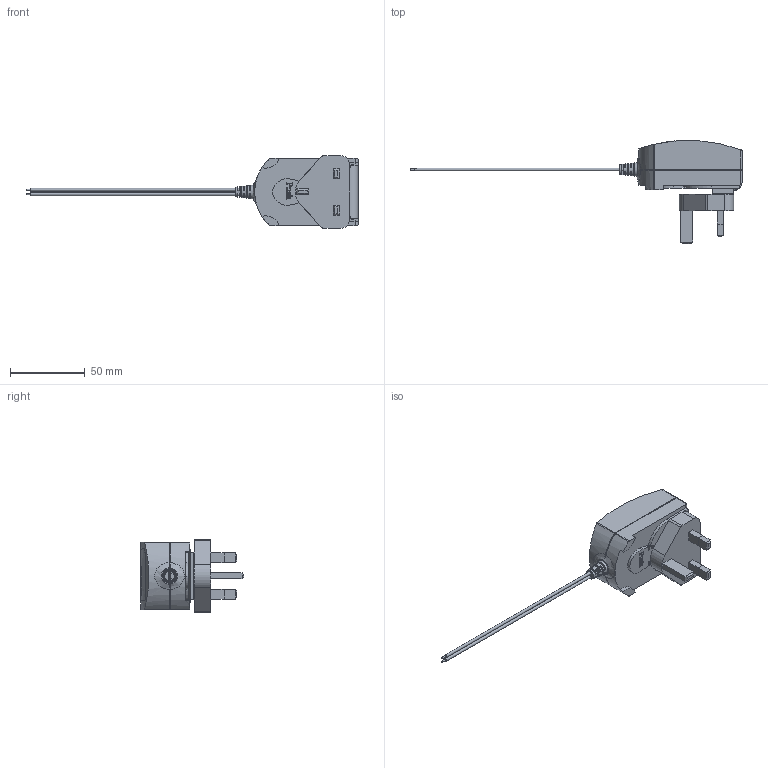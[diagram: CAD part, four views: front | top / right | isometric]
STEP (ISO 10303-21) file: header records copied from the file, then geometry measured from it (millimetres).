
FILE_DESCRIPTION (( 'STEP AP214' ), '1' );
FILE_NAME ('U.STEP', '2016-01-04T19:57:56', ( 'Daryl' ), ( 'Microsoft' ), 'SwSTEP 2.0', 'SolidWorks 2014', '' );
FILE_SCHEMA (( 'AUTOMOTIVE_DESIGN' ));
Length unit declared in the file: millimetre
Products named in the file (1): U
Bounding box: 222.1 x 68.91 x 48.5 mm (x, y, z)
Surface area: 21773.1 mm2 (no closed solid volume)
Topology: 0 solids, 36 shells, 506 faces, 2642 edges, 2142 vertices
Faces by surface type: plane 236, bspline 219, cylinder 46, torus 4, cone 1
Full cylindrical faces by diameter (mm): 1 x2, 1.9 x2
Entity records: 38638 total; most frequent: CARTESIAN_POINT 16548, ORIENTED_EDGE 3421, EDGE_CURVE 2628, VERTEX_POINT 2136, DIRECTION 1897, B_SPLINE_CURVE_WITH_KNOTS 1464, VECTOR 1001, LINE 1001
